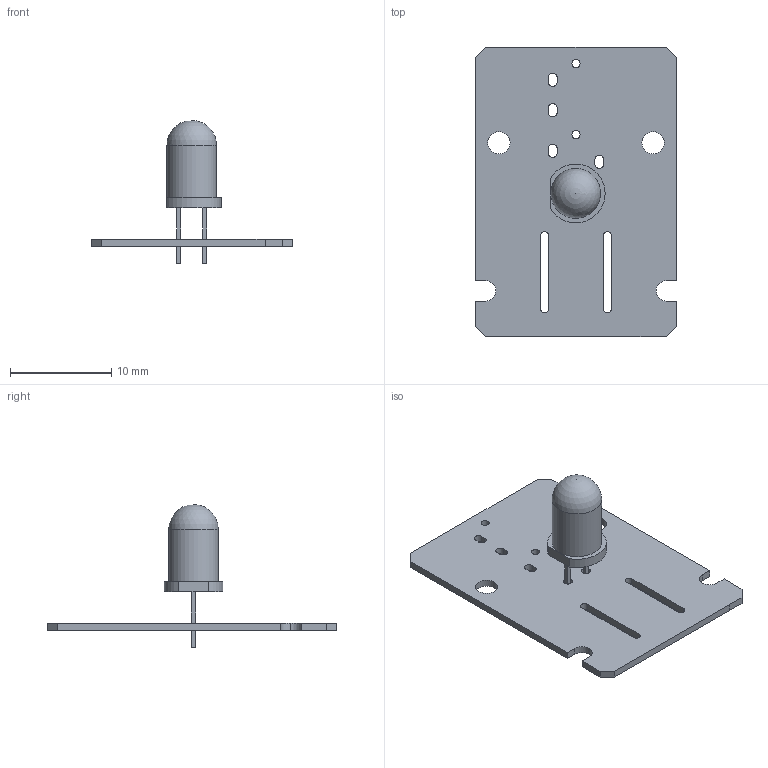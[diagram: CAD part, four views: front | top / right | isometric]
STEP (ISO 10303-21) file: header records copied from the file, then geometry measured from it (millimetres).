
FILE_DESCRIPTION(('KiCad electronic assembly'),'2;1');
FILE_NAME('Daughterboard THT V2.step','2025-03-24T13:32:48',('Pcbnew'),( 'Kicad'),'Open CASCADE STEP processor 7.8','KiCad to STEP converter' ,'Unknown');
FILE_SCHEMA(('AUTOMOTIVE_DESIGN { 1 0 10303 214 1 1 1 1 }'));
Length unit declared in the file: millimetre
Products named in the file (3): Daughterboard THT V2 1; LED_D5.0mm; Daughterboard THT V2_PCB
Assembly tree (2 placements, depth 2):
  Daughterboard THT V2 1
    LED_D5.0mm
    Daughterboard THT V2_PCB
Bounding box: 19.8 x 28.5 x 14.1 mm (x, y, z)
Volume: 530.7 mm3; surface area: 1365.7 mm2
Topology: 2 solids, 2 shells, 68 faces, 185 edges, 123 vertices
Faces by surface type: plane 43, cylinder 24, sphere 1
Full cylindrical faces by diameter (mm): 0.8 x2, 0.9 x2, 2.2 x2, 4.9 x1
Entity records: 2361 total; most frequent: CARTESIAN_POINT 378, DIRECTION 375, ORIENTED_EDGE 368, EDGE_CURVE 184, LINE 135, VECTOR 135, VERTEX_POINT 123, AXIS2_PLACEMENT_3D 120
